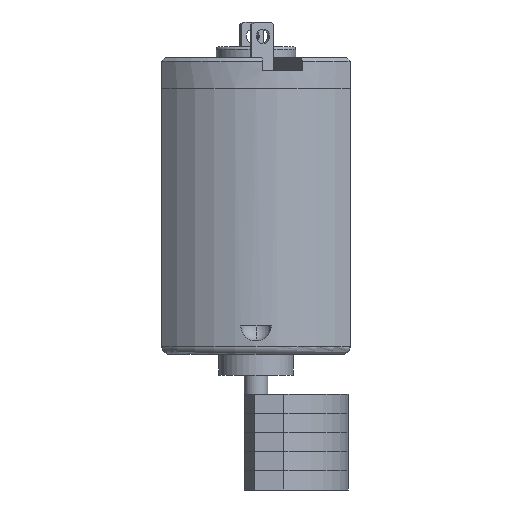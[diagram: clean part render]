
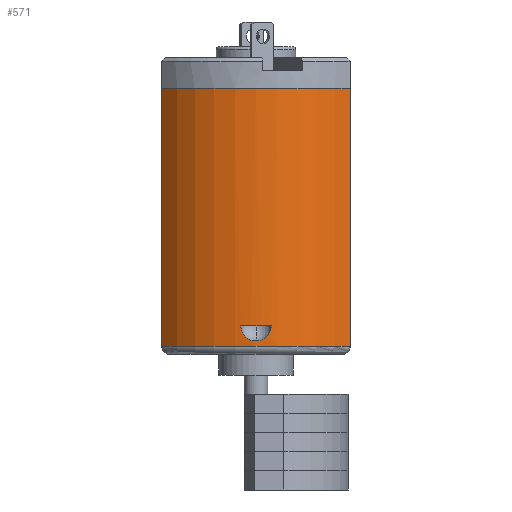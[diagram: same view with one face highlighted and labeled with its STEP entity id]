
A CAD part, front view. The second image highlights one B-rep face of the part: STEP entity #571.
In plain terms, the highlighted cylindrical face has radius 7.7 mm (diameter 15.4 mm), a partial arc.
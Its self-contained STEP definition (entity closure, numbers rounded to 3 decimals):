
#93 = CARTESIAN_POINT ( 'NONE',  ( -0.762, -7.663, 1.215 ) ) ;
#213 = AXIS2_PLACEMENT_3D ( 'NONE', #6262, #3270, #260 ) ;
#234 = CARTESIAN_POINT ( 'NONE',  ( 0., -7.7, 0.847 ) ) ;
#260 = DIRECTION ( 'NONE',  ( 1., 0., 0. ) ) ;
#262 = DIRECTION ( 'NONE',  ( 0., 0., 1. ) ) ;
#432 = ORIENTED_EDGE ( 'NONE', *, *, #6401, .T. ) ;
#476 = CARTESIAN_POINT ( 'NONE',  ( -5.9, -4.948, 16.7 ) ) ;
#571 = ADVANCED_FACE ( 'NONE', ( #2388, #2775 ), #3571, .T. ) ;
#582 = B_SPLINE_CURVE_WITH_KNOTS ( 'NONE', 3,
 ( #3724, #3207, #4789, #2223, #5744, #2732, #4769, #6260, #3244, #234 ),
 .UNSPECIFIED., .F., .F.,
 ( 4, 2, 2, 2, 4 ),
 ( 0., 0., 0.001, 0.001, 0.001 ),
 .UNSPECIFIED. ) ;
#610 = CARTESIAN_POINT ( 'NONE',  ( 5.9, -4.948, 16.7 ) ) ;
#624 = CARTESIAN_POINT ( 'NONE',  ( -0.48, -7.686, 0.967 ) ) ;
#690 = EDGE_CURVE ( 'NONE', #1376, #4334, #2701, .T. ) ;
#722 = VERTEX_POINT ( 'NONE', #476 ) ;
#996 = CARTESIAN_POINT ( 'NONE',  ( 0., 0., 1.8 ) ) ;
#1127 = CARTESIAN_POINT ( 'NONE',  ( -0.831, -7.655, 1.32 ) ) ;
#1137 = EDGE_CURVE ( 'NONE', #2091, #2581, #1216, .T. ) ;
#1216 = LINE ( 'NONE', #3753, #3643 ) ;
#1274 = ORIENTED_EDGE ( 'NONE', *, *, #1137, .F. ) ;
#1376 = VERTEX_POINT ( 'NONE', #1505 ) ;
#1422 = VERTEX_POINT ( 'NONE', #1964 ) ;
#1461 = AXIS2_PLACEMENT_3D ( 'NONE', #6216, #262, #1764 ) ;
#1462 = ORIENTED_EDGE ( 'NONE', *, *, #690, .T. ) ;
#1505 = CARTESIAN_POINT ( 'NONE',  ( -0.951, -7.641, 1.8 ) ) ;
#1592 = CIRCLE ( 'NONE', #213, 7.7 ) ;
#1618 = VERTEX_POINT ( 'NONE', #2486 ) ;
#1764 = DIRECTION ( 'NONE',  ( 1., 0., 0. ) ) ;
#1962 = ORIENTED_EDGE ( 'NONE', *, *, #5836, .F. ) ;
#1964 = CARTESIAN_POINT ( 'NONE',  ( 0., -7.7, 0.847 ) ) ;
#2038 = ORIENTED_EDGE ( 'NONE', *, *, #4097, .T. ) ;
#2091 = VERTEX_POINT ( 'NONE', #610 ) ;
#2223 = CARTESIAN_POINT ( 'NONE',  ( 0.831, -7.655, 1.319 ) ) ;
#2351 = EDGE_LOOP ( 'NONE', ( #2720, #5642, #1462 ) ) ;
#2388 = FACE_BOUND ( 'NONE', #2351, .T. ) ;
#2486 = CARTESIAN_POINT ( 'NONE',  ( -5.9, -4.948, 0.5 ) ) ;
#2509 = DIRECTION ( 'NONE',  ( 1., 0., 0. ) ) ;
#2572 = DIRECTION ( 'NONE',  ( 0., 0., 1. ) ) ;
#2581 = VERTEX_POINT ( 'NONE', #6039 ) ;
#2645 = EDGE_CURVE ( 'NONE', #1422, #1376, #4787, .T. ) ;
#2649 = CARTESIAN_POINT ( 'NONE',  ( -0.584, -7.678, 1.037 ) ) ;
#2701 = CIRCLE ( 'NONE', #5212, 7.7 ) ;
#2720 = ORIENTED_EDGE ( 'NONE', *, *, #5294, .T. ) ;
#2732 = CARTESIAN_POINT ( 'NONE',  ( 0.585, -7.678, 1.038 ) ) ;
#2775 = FACE_OUTER_BOUND ( 'NONE', #6441, .T. ) ;
#2886 = CARTESIAN_POINT ( 'NONE',  ( -5.9, -4.948, 16.7 ) ) ;
#2938 = CIRCLE ( 'NONE', #1461, 7.7 ) ;
#3117 = CARTESIAN_POINT ( 'NONE',  ( -0.124, -7.7, 0.847 ) ) ;
#3142 = CARTESIAN_POINT ( 'NONE',  ( -0.951, -7.641, 1.8 ) ) ;
#3207 = CARTESIAN_POINT ( 'NONE',  ( 0.951, -7.641, 1.674 ) ) ;
#3244 = CARTESIAN_POINT ( 'NONE',  ( 0.124, -7.7, 0.847 ) ) ;
#3270 = DIRECTION ( 'NONE',  ( 0., 0., 1. ) ) ;
#3449 = DIRECTION ( 'NONE',  ( 0., 0., -1. ) ) ;
#3571 = CYLINDRICAL_SURFACE ( 'NONE', #6131, 7.7 ) ;
#3600 = CARTESIAN_POINT ( 'NONE',  ( -0.927, -7.644, 1.55 ) ) ;
#3643 = VECTOR ( 'NONE', #4822, 1000. ) ;
#3724 = CARTESIAN_POINT ( 'NONE',  ( 0.951, -7.641, 1.8 ) ) ;
#3753 = CARTESIAN_POINT ( 'NONE',  ( 5.9, -4.948, 16.7 ) ) ;
#4097 = EDGE_CURVE ( 'NONE', #722, #1618, #5416, .T. ) ;
#4334 = VERTEX_POINT ( 'NONE', #6048 ) ;
#4358 = CARTESIAN_POINT ( 'NONE',  ( 0., 0., 16.7 ) ) ;
#4624 = CARTESIAN_POINT ( 'NONE',  ( -0.951, -7.641, 1.674 ) ) ;
#4769 = CARTESIAN_POINT ( 'NONE',  ( 0.479, -7.686, 0.967 ) ) ;
#4787 = B_SPLINE_CURVE_WITH_KNOTS ( 'NONE', 3,
 ( #5660, #3117, #5105, #624, #2649, #93, #1127, #3600, #4624, #3142 ),
 .UNSPECIFIED., .F., .F.,
 ( 4, 2, 2, 2, 4 ),
 ( 0.001, 0.002, 0.002, 0.003, 0.003 ),
 .UNSPECIFIED. ) ;
#4789 = CARTESIAN_POINT ( 'NONE',  ( 0.927, -7.644, 1.55 ) ) ;
#4822 = DIRECTION ( 'NONE',  ( 0., 0., -1. ) ) ;
#5105 = CARTESIAN_POINT ( 'NONE',  ( -0.249, -7.697, 0.872 ) ) ;
#5192 = VECTOR ( 'NONE', #5840, 1000. ) ;
#5212 = AXIS2_PLACEMENT_3D ( 'NONE', #996, #2572, #2509 ) ;
#5294 = EDGE_CURVE ( 'NONE', #4334, #1422, #582, .T. ) ;
#5416 = LINE ( 'NONE', #2886, #5192 ) ;
#5642 = ORIENTED_EDGE ( 'NONE', *, *, #2645, .T. ) ;
#5660 = CARTESIAN_POINT ( 'NONE',  ( 0., -7.7, 0.847 ) ) ;
#5744 = CARTESIAN_POINT ( 'NONE',  ( 0.761, -7.663, 1.214 ) ) ;
#5836 = EDGE_CURVE ( 'NONE', #722, #2091, #2938, .T. ) ;
#5840 = DIRECTION ( 'NONE',  ( 0., 0., -1. ) ) ;
#6039 = CARTESIAN_POINT ( 'NONE',  ( 5.9, -4.948, 0.5 ) ) ;
#6048 = CARTESIAN_POINT ( 'NONE',  ( 0.951, -7.641, 1.8 ) ) ;
#6131 = AXIS2_PLACEMENT_3D ( 'NONE', #4358, #3449, #6478 ) ;
#6216 = CARTESIAN_POINT ( 'NONE',  ( 0., 0., 16.7 ) ) ;
#6260 = CARTESIAN_POINT ( 'NONE',  ( 0.25, -7.697, 0.872 ) ) ;
#6262 = CARTESIAN_POINT ( 'NONE',  ( 0., 0., 0.5 ) ) ;
#6401 = EDGE_CURVE ( 'NONE', #1618, #2581, #1592, .T. ) ;
#6441 = EDGE_LOOP ( 'NONE', ( #432, #1274, #1962, #2038 ) ) ;
#6478 = DIRECTION ( 'NONE',  ( -1., 0., 0. ) ) ;
